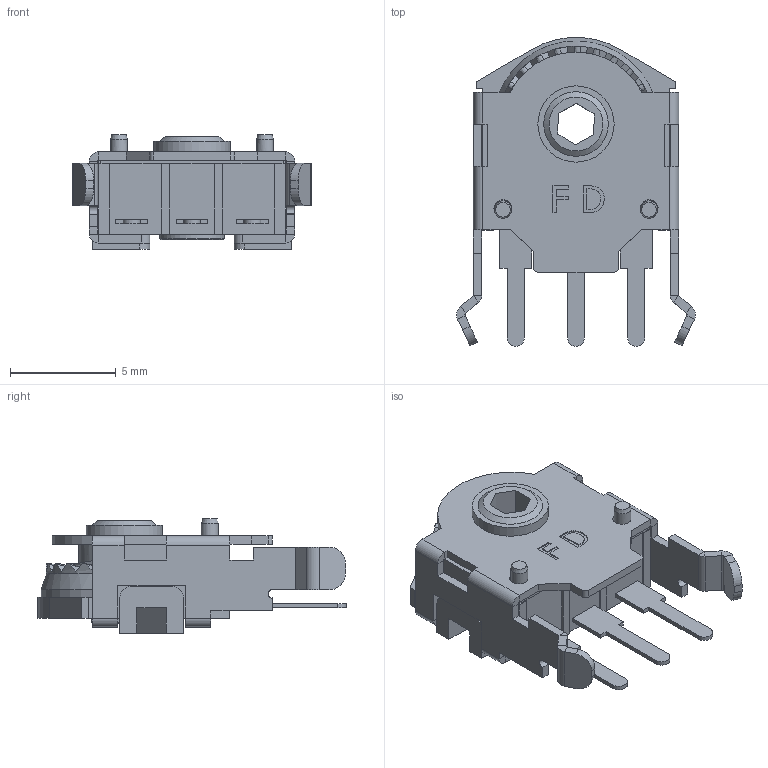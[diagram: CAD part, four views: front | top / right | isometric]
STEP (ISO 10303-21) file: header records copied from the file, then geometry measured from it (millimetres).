
FILE_DESCRIPTION((''),'2;1');
FILE_NAME('D:\ka99036\FWD\機種開發\Encoder\DC10F\3D\包膜\DC10F1220266.stp','2012-12-10T13:26:29',('ka99036'),(''),'Autodesk Inventor 2010','Autodesk Inventor 2010','');
FILE_SCHEMA(('AUTOMOTIVE_DESIGN { 1 0 10303 214 1 1 1 1 }'));
Length unit declared in the file: millimetre
Products named in the file (1): DC10F1220266
Bounding box: 11.29 x 14.59 x 5.4 mm (x, y, z)
Volume: 242.8 mm3; surface area: 860.8 mm2
Topology: 1 solids, 2 shells, 435 faces, 1201 edges, 758 vertices
Faces by surface type: plane 286, cylinder 80, bspline 64, cone 5
Full cylindrical faces by diameter (mm): 0.8 x2, 0.85 x2, 3.05 x1, 3.55 x1, 3.6 x1, 3.8 x1, 4.3 x1, 7 x1, 7.35 x1, 7.45 x1, 7.6 x1, 7.85 x1
Entity records: 17132 total; most frequent: CARTESIAN_POINT 6174, ORIENTED_EDGE 2354, DIRECTION 1988, EDGE_CURVE 1177, VECTOR 756, LINE 756, VERTEX_POINT 753, AXIS2_PLACEMENT_3D 616
